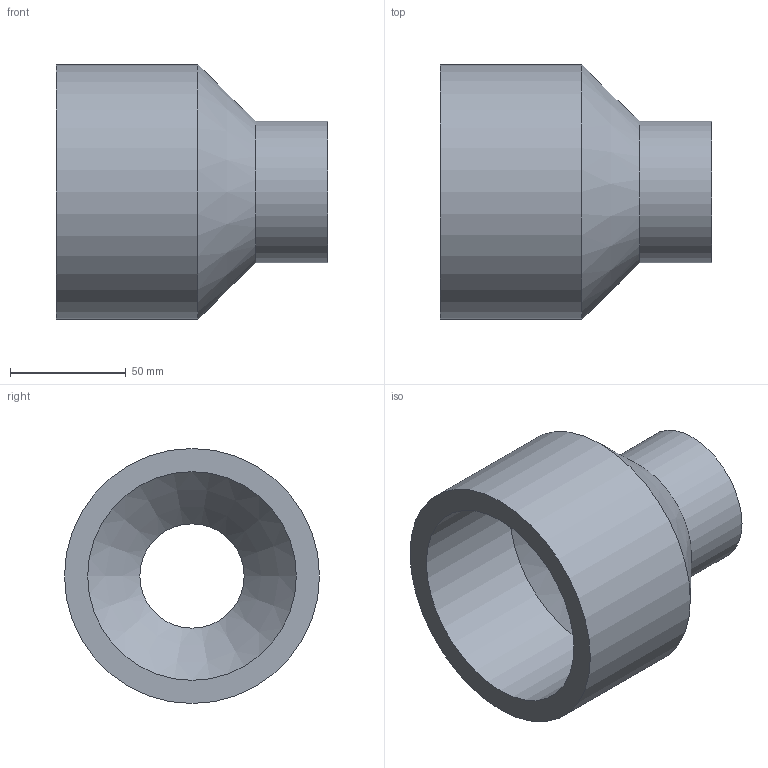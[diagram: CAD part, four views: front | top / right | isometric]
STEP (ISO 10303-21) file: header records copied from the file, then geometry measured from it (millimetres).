
FILE_DESCRIPTION(/* description */ ('PLASSON REDUCER SOCKET M.F.110(90)50 CEMENTED'),/* implementation_level */ '2;1');
FILE_NAME(/* name */ 'C:\Dropbox\KIMPROJECTS-Inventor\99-16-3568-Processing\PVC Catalog 2017\050200\050200110050.ipt.stp',/* time_stamp */ '2017-12-07T15:52:49+02:00',/* author */ ('KIM'),/* organization */ (''),/* preprocessor_version */ 'ST-DEVELOPER v15.6',/* originating_system */ 'Autodesk Inventor 2015',/* authorisation */ '');
FILE_SCHEMA (('AUTOMOTIVE_DESIGN { 1 0 10303 214 3 1 1 }'));
Length unit declared in the file: millimetre
Products named in the file (1): 050200110050
Bounding box: 117 x 110 x 110 mm (x, y, z)
Volume: 328095.8 mm3; surface area: 68705.1 mm2
Topology: 1 solids, 1 shells, 10 faces, 17 edges, 10 vertices
Faces by surface type: cylinder 5, plane 3, cone 2
Full cylindrical faces by diameter (mm): 45 x1, 50 x1, 61 x1, 90 x1, 110 x1
Entity records: 232 total; most frequent: DIRECTION 42, CARTESIAN_POINT 31, AXIS2_PLACEMENT_3D 21, EDGE_LOOP 20, ORIENTED_EDGE 20, FACE_BOUND 10, FACE_OUTER_BOUND 10, CIRCLE 10
